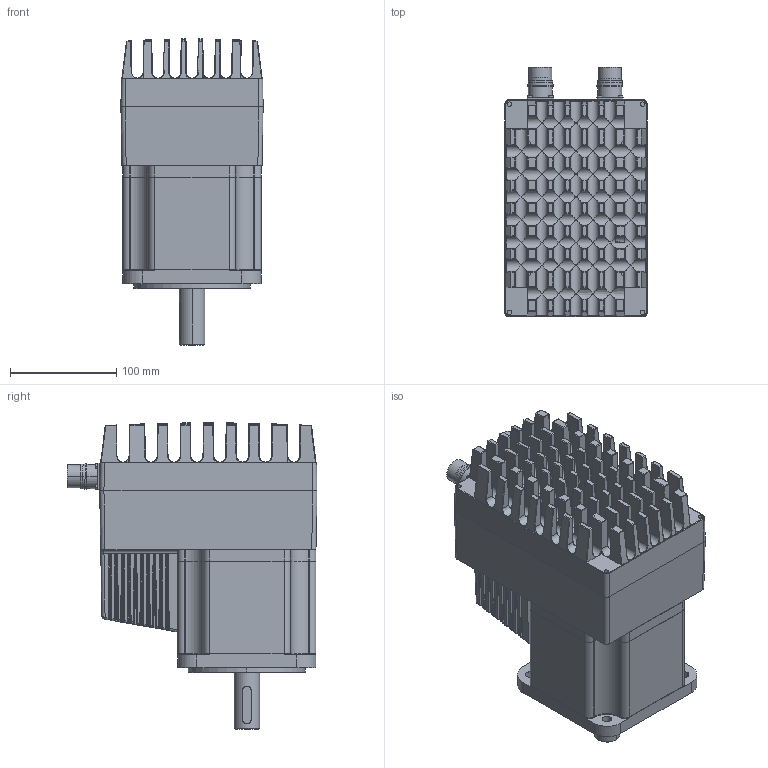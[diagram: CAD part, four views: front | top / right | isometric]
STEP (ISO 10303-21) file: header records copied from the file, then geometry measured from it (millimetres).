
FILE_DESCRIPTION (( 'STEP AP214' ), '1' );
FILE_NAME ('MAC1500 G2 Rev2.STEP', '2019-08-27T16:36:54', ( '' ), ( '' ), 'SwSTEP 2.0', 'SolidWorks 2018', '' );
FILE_SCHEMA (( 'AUTOMOTIVE_DESIGN' ));
Length unit declared in the file: millimetre
Products named in the file (10): Front flange S; MAC1500 G2 Rev2; M23 female; Center part S_MAC 1500; Shaft S; Housing S; Rear flange S; M23 male; Front cover S; Module s
Assembly tree (9 placements, depth 2):
  MAC1500 G2 Rev2
    Front flange S
    Center part S_MAC 1500
    Rear flange S
    Housing S
    Module s
    Front cover S
    Shaft S
    M23 male
    M23 female
Bounding box: 133.88 x 235.27 x 288.28 mm (x, y, z)
Volume: 4543710.3 mm3; surface area: 464304.1 mm2
Topology: 9 solids, 10 shells, 2395 faces, 5764 edges, 3386 vertices
Faces by surface type: cylinder 981, plane 733, bspline 633, cone 48
Entity records: 106078 total; most frequent: CARTESIAN_POINT 52147, ORIENTED_EDGE 11384, DIRECTION 9155, EDGE_CURVE 5692, VERTEX_POINT 3386, AXIS2_PLACEMENT_3D 3214, LINE 2727, VECTOR 2727
